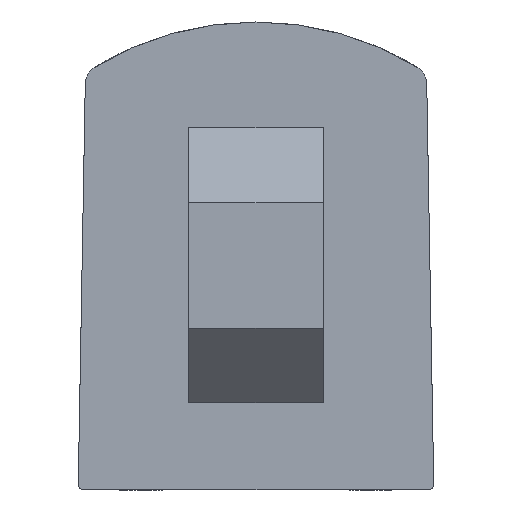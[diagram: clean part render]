
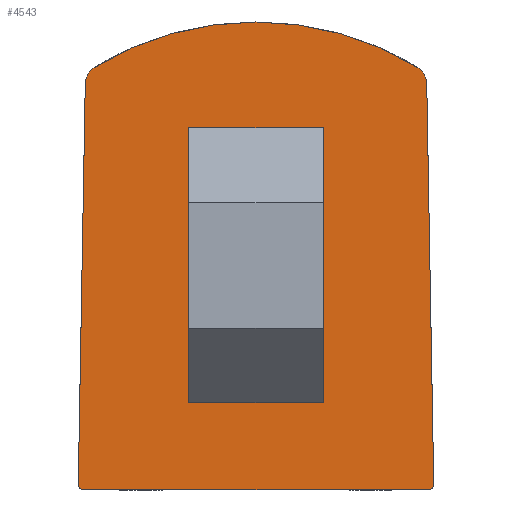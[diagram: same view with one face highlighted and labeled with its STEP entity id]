
A CAD part, front view. The second image highlights one B-rep face of the part: STEP entity #4543.
In plain terms, the highlighted planar face has unit normal (0, -1, 0).
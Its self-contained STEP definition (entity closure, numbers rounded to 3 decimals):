
#54 = DIRECTION ( 'NONE',  ( 0., 0., 1. ) ) ;
#57 = EDGE_CURVE ( 'NONE', #3493, #1610, #2612, .T. ) ;
#78 = ORIENTED_EDGE ( 'NONE', *, *, #740, .F. ) ;
#222 = ORIENTED_EDGE ( 'NONE', *, *, #4805, .F. ) ;
#235 = DIRECTION ( 'NONE',  ( 0., 0., 1. ) ) ;
#239 = CIRCLE ( 'NONE', #1971, 1. ) ;
#367 = VECTOR ( 'NONE', #4436, 1000. ) ;
#434 = CARTESIAN_POINT ( 'NONE',  ( -8.643, 0., 11.562 ) ) ;
#485 = EDGE_CURVE ( 'NONE', #1610, #4039, #2919, .T. ) ;
#588 = ORIENTED_EDGE ( 'NONE', *, *, #2474, .F. ) ;
#663 = CARTESIAN_POINT ( 'NONE',  ( 3.25, 0., 5.1 ) ) ;
#704 = CARTESIAN_POINT ( 'NONE',  ( 9.5, 0., -11. ) ) ;
#740 = EDGE_CURVE ( 'NONE', #2938, #1880, #3181, .T. ) ;
#770 = VECTOR ( 'NONE', #4723, 1000. ) ;
#839 = ORIENTED_EDGE ( 'NONE', *, *, #2902, .F. ) ;
#892 = VERTEX_POINT ( 'NONE', #1763 ) ;
#902 = VERTEX_POINT ( 'NONE', #663 ) ;
#916 = ORIENTED_EDGE ( 'NONE', *, *, #2752, .F. ) ;
#970 = CARTESIAN_POINT ( 'NONE',  ( 9.121, 0., 10.727 ) ) ;
#980 = LINE ( 'NONE', #4509, #4822 ) ;
#1088 = VERTEX_POINT ( 'NONE', #2918 ) ;
#1089 = VERTEX_POINT ( 'NONE', #1460 ) ;
#1092 = VERTEX_POINT ( 'NONE', #2207 ) ;
#1101 = CARTESIAN_POINT ( 'NONE',  ( 0., 0., -2.542 ) ) ;
#1146 = CARTESIAN_POINT ( 'NONE',  ( -9.121, 0., 10.727 ) ) ;
#1160 = CARTESIAN_POINT ( 'NONE',  ( 0., 0., -2.542 ) ) ;
#1185 = CARTESIAN_POINT ( 'NONE',  ( 3.25, 0., 0.4 ) ) ;
#1263 = CARTESIAN_POINT ( 'NONE',  ( -0.25, 0., 0.4 ) ) ;
#1275 = DIRECTION ( 'NONE',  ( 0., -1., 0. ) ) ;
#1313 = AXIS2_PLACEMENT_3D ( 'NONE', #3469, #1275, #3852 ) ;
#1334 = CARTESIAN_POINT ( 'NONE',  ( -3.25, 0., -3.1 ) ) ;
#1337 = DIRECTION ( 'NONE',  ( 0., 1., 0. ) ) ;
#1350 = AXIS2_PLACEMENT_3D ( 'NONE', #4675, #2476, #235 ) ;
#1370 = DIRECTION ( 'NONE',  ( 0., 1., 0. ) ) ;
#1379 = VERTEX_POINT ( 'NONE', #2040 ) ;
#1460 = CARTESIAN_POINT ( 'NONE',  ( -9.495, 0., -10.695 ) ) ;
#1473 = DIRECTION ( 'NONE',  ( 0., 0., 1. ) ) ;
#1543 = DIRECTION ( 'NONE',  ( 0., 0., 1. ) ) ;
#1599 = CARTESIAN_POINT ( 'NONE',  ( -9.5, 0., -3.1 ) ) ;
#1610 = VERTEX_POINT ( 'NONE', #1773 ) ;
#1636 = DIRECTION ( 'NONE',  ( 0., 0., -1. ) ) ;
#1641 = EDGE_CURVE ( 'NONE', #902, #4689, #1649, .T. ) ;
#1649 = LINE ( 'NONE', #2513, #770 ) ;
#1671 = ORIENTED_EDGE ( 'NONE', *, *, #2713, .F. ) ;
#1763 = CARTESIAN_POINT ( 'NONE',  ( 9.495, 0., -10.695 ) ) ;
#1773 = CARTESIAN_POINT ( 'NONE',  ( -0.25, 0., -3.1 ) ) ;
#1818 = ORIENTED_EDGE ( 'NONE', *, *, #4207, .F. ) ;
#1845 = DIRECTION ( 'NONE',  ( 0.017, 0., -1. ) ) ;
#1858 = DIRECTION ( 'NONE',  ( -1., 0., 0. ) ) ;
#1880 = VERTEX_POINT ( 'NONE', #3726 ) ;
#1883 = EDGE_LOOP ( 'NONE', ( #2696, #4544, #3345, #1671, #4189, #588, #78, #839, #1818 ) ) ;
#1960 = ORIENTED_EDGE ( 'NONE', *, *, #57, .F. ) ;
#1962 = CARTESIAN_POINT ( 'NONE',  ( -9.195, 0., -10.7 ) ) ;
#1971 = AXIS2_PLACEMENT_3D ( 'NONE', #4506, #2304, #54 ) ;
#2040 = CARTESIAN_POINT ( 'NONE',  ( -9.195, 0., -11. ) ) ;
#2207 = CARTESIAN_POINT ( 'NONE',  ( -3.25, 0., 1.6 ) ) ;
#2273 = CIRCLE ( 'NONE', #1350, 1. ) ;
#2301 = ORIENTED_EDGE ( 'NONE', *, *, #4330, .F. ) ;
#2304 = DIRECTION ( 'NONE',  ( 0., 1., 0. ) ) ;
#2310 = ORIENTED_EDGE ( 'NONE', *, *, #485, .F. ) ;
#2332 = DIRECTION ( 'NONE',  ( 0., 0., -1. ) ) ;
#2424 = VERTEX_POINT ( 'NONE', #1146 ) ;
#2473 = CARTESIAN_POINT ( 'NONE',  ( -9.5, 0., -11. ) ) ;
#2474 = EDGE_CURVE ( 'NONE', #1880, #1088, #4187, .T. ) ;
#2476 = DIRECTION ( 'NONE',  ( 0., 1., 0. ) ) ;
#2513 = CARTESIAN_POINT ( 'NONE',  ( -9.5, 0., 5.1 ) ) ;
#2612 = LINE ( 'NONE', #1599, #3457 ) ;
#2616 = AXIS2_PLACEMENT_3D ( 'NONE', #3528, #1337, #3916 ) ;
#2696 = ORIENTED_EDGE ( 'NONE', *, *, #3698, .F. ) ;
#2698 = DIRECTION ( 'NONE',  ( 0.017, 0., 1. ) ) ;
#2713 = EDGE_CURVE ( 'NONE', #3333, #892, #3432, .T. ) ;
#2752 = EDGE_CURVE ( 'NONE', #1092, #3493, #3330, .T. ) ;
#2759 = AXIS2_PLACEMENT_3D ( 'NONE', #1160, #3732, #1543 ) ;
#2769 = LINE ( 'NONE', #4060, #3508 ) ;
#2778 = AXIS2_PLACEMENT_3D ( 'NONE', #1263, #3838, #1636 ) ;
#2836 = CIRCLE ( 'NONE', #4236, 0.3 ) ;
#2901 = FACE_BOUND ( 'NONE', #4827, .T. ) ;
#2902 = EDGE_CURVE ( 'NONE', #2424, #2938, #239, .T. ) ;
#2918 = CARTESIAN_POINT ( 'NONE',  ( 8.643, 0., 11.562 ) ) ;
#2919 = CIRCLE ( 'NONE', #2778, 3.5 ) ;
#2938 = VERTEX_POINT ( 'NONE', #434 ) ;
#3013 = FACE_OUTER_BOUND ( 'NONE', #1883, .T. ) ;
#3181 = CIRCLE ( 'NONE', #3930, 16.542 ) ;
#3301 = EDGE_CURVE ( 'NONE', #892, #4005, #3776, .T. ) ;
#3316 = CARTESIAN_POINT ( 'NONE',  ( -3.25, 0., -11. ) ) ;
#3330 = LINE ( 'NONE', #3316, #367 ) ;
#3333 = VERTEX_POINT ( 'NONE', #970 ) ;
#3345 = ORIENTED_EDGE ( 'NONE', *, *, #3301, .F. ) ;
#3381 = AXIS2_PLACEMENT_3D ( 'NONE', #2473, #1370, #3948 ) ;
#3432 = LINE ( 'NONE', #704, #4298 ) ;
#3457 = VECTOR ( 'NONE', #4258, 1000. ) ;
#3469 = CARTESIAN_POINT ( 'NONE',  ( 0.25, 0., 1.6 ) ) ;
#3493 = VERTEX_POINT ( 'NONE', #1334 ) ;
#3508 = VECTOR ( 'NONE', #1858, 1000. ) ;
#3528 = CARTESIAN_POINT ( 'NONE',  ( 9.195, 0., -10.7 ) ) ;
#3562 = PLANE ( 'NONE',  #3381 ) ;
#3575 = LINE ( 'NONE', #4212, #4462 ) ;
#3661 = DIRECTION ( 'NONE',  ( 0., 1., 0. ) ) ;
#3698 = EDGE_CURVE ( 'NONE', #1379, #1089, #2836, .T. ) ;
#3726 = CARTESIAN_POINT ( 'NONE',  ( 0., 0., 14. ) ) ;
#3732 = DIRECTION ( 'NONE',  ( 0., 1., 0. ) ) ;
#3743 = CARTESIAN_POINT ( 'NONE',  ( 9.195, 0., -11. ) ) ;
#3776 = CIRCLE ( 'NONE', #2616, 0.3 ) ;
#3838 = DIRECTION ( 'NONE',  ( 0., -1., 0. ) ) ;
#3852 = DIRECTION ( 'NONE',  ( 0., 0., -1. ) ) ;
#3865 = ORIENTED_EDGE ( 'NONE', *, *, #1641, .F. ) ;
#3916 = DIRECTION ( 'NONE',  ( 0., 0., -1. ) ) ;
#3930 = AXIS2_PLACEMENT_3D ( 'NONE', #1101, #3661, #1473 ) ;
#3948 = DIRECTION ( 'NONE',  ( 0., 0., 1. ) ) ;
#4005 = VERTEX_POINT ( 'NONE', #3743 ) ;
#4039 = VERTEX_POINT ( 'NONE', #1185 ) ;
#4060 = CARTESIAN_POINT ( 'NONE',  ( -9.5, 0., -11. ) ) ;
#4187 = CIRCLE ( 'NONE', #2759, 16.542 ) ;
#4189 = ORIENTED_EDGE ( 'NONE', *, *, #4457, .F. ) ;
#4207 = EDGE_CURVE ( 'NONE', #1089, #2424, #980, .T. ) ;
#4212 = CARTESIAN_POINT ( 'NONE',  ( 3.25, 0., -11. ) ) ;
#4236 = AXIS2_PLACEMENT_3D ( 'NONE', #1962, #4530, #2332 ) ;
#4258 = DIRECTION ( 'NONE',  ( 1., 0., 0. ) ) ;
#4298 = VECTOR ( 'NONE', #1845, 1000. ) ;
#4330 = EDGE_CURVE ( 'NONE', #4039, #902, #3575, .T. ) ;
#4436 = DIRECTION ( 'NONE',  ( 0., 0., -1. ) ) ;
#4457 = EDGE_CURVE ( 'NONE', #1088, #3333, #2273, .T. ) ;
#4462 = VECTOR ( 'NONE', #4585, 1000. ) ;
#4506 = CARTESIAN_POINT ( 'NONE',  ( -8.121, 0., 10.71 ) ) ;
#4509 = CARTESIAN_POINT ( 'NONE',  ( -9.495, 0., -10.695 ) ) ;
#4530 = DIRECTION ( 'NONE',  ( 0., 1., 0. ) ) ;
#4543 = ADVANCED_FACE ( 'NONE', ( #2901, #3013 ), #3562, .F. ) ;
#4544 = ORIENTED_EDGE ( 'NONE', *, *, #4664, .F. ) ;
#4585 = DIRECTION ( 'NONE',  ( 0., 0., 1. ) ) ;
#4590 = CIRCLE ( 'NONE', #1313, 3.5 ) ;
#4664 = EDGE_CURVE ( 'NONE', #4005, #1379, #2769, .T. ) ;
#4675 = CARTESIAN_POINT ( 'NONE',  ( 8.121, 0., 10.71 ) ) ;
#4689 = VERTEX_POINT ( 'NONE', #4810 ) ;
#4723 = DIRECTION ( 'NONE',  ( -1., 0., 0. ) ) ;
#4805 = EDGE_CURVE ( 'NONE', #4689, #1092, #4590, .T. ) ;
#4810 = CARTESIAN_POINT ( 'NONE',  ( 0.25, 0., 5.1 ) ) ;
#4822 = VECTOR ( 'NONE', #2698, 1000. ) ;
#4827 = EDGE_LOOP ( 'NONE', ( #1960, #916, #222, #3865, #2301, #2310 ) ) ;
